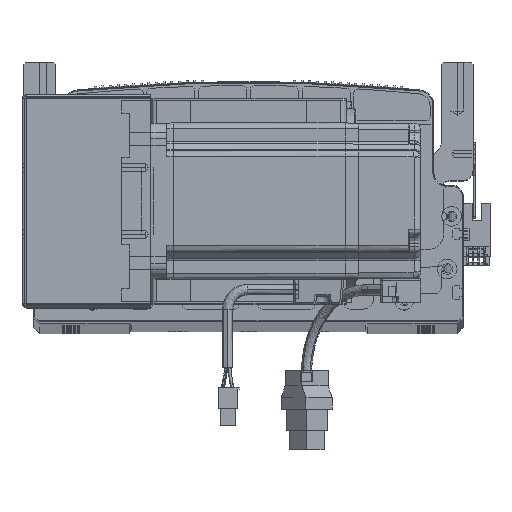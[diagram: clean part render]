
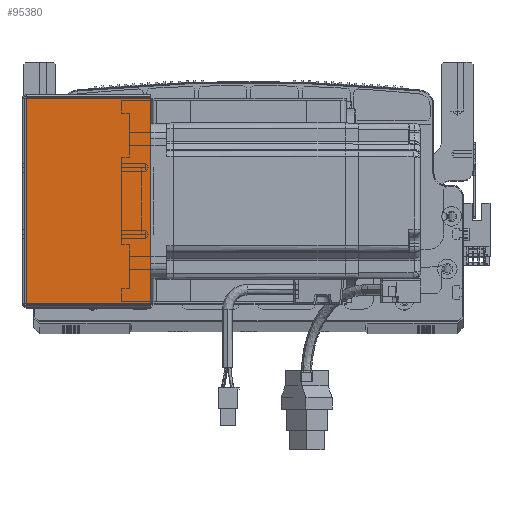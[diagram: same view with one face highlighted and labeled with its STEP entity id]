
A CAD part, top view. The second image highlights one B-rep face of the part: STEP entity #95380.
In plain terms, the highlighted planar face has unit normal (0, 0, 1) as drawn and (0, 0, -1) by its records, which use the part's own axes.
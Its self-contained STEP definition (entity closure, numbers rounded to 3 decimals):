
#6167 = ORIENTED_EDGE ( 'NONE', *, *, #56945, .T. ) ;
#6754 = VECTOR ( 'NONE', #90487, 1000. ) ;
#7267 = ORIENTED_EDGE ( 'NONE', *, *, #48030, .T. ) ;
#9676 = LINE ( 'NONE', #19001, #22645 ) ;
#12675 = CARTESIAN_POINT ( 'NONE',  ( 0.737, 0.707, -205.5 ) ) ;
#15250 = CARTESIAN_POINT ( 'NONE',  ( 0., 0., -205.5 ) ) ;
#19001 = CARTESIAN_POINT ( 'NONE',  ( 0.737, 0., -205.5 ) ) ;
#21918 = CARTESIAN_POINT ( 'NONE',  ( 64.5, 105.293, -205.5 ) ) ;
#22645 = VECTOR ( 'NONE', #80135, 1000. ) ;
#23837 = VERTEX_POINT ( 'NONE', #63169 ) ;
#24911 = LINE ( 'NONE', #50038, #88760 ) ;
#25535 = EDGE_CURVE ( 'NONE', #92250, #58649, #9676, .T. ) ;
#30109 = DIRECTION ( 'NONE',  ( 0., 0., 1. ) ) ;
#38703 = VECTOR ( 'NONE', #64948, 1000. ) ;
#42823 = DIRECTION ( 'NONE',  ( 1., 0., 0. ) ) ;
#45684 = PLANE ( 'NONE',  #76133 ) ;
#46244 = CARTESIAN_POINT ( 'NONE',  ( 64.5, 0., -205.5 ) ) ;
#46977 = LINE ( 'NONE', #46244, #6754 ) ;
#48030 = EDGE_CURVE ( 'NONE', #92250, #68397, #24911, .T. ) ;
#50038 = CARTESIAN_POINT ( 'NONE',  ( 0., 105.293, -205.5 ) ) ;
#53091 = EDGE_CURVE ( 'NONE', #58649, #23837, #96628, .T. ) ;
#56945 = EDGE_CURVE ( 'NONE', #68397, #23837, #46977, .T. ) ;
#58649 = VERTEX_POINT ( 'NONE', #12675 ) ;
#61451 = ORIENTED_EDGE ( 'NONE', *, *, #25535, .F. ) ;
#63169 = CARTESIAN_POINT ( 'NONE',  ( 64.5, 0.707, -205.5 ) ) ;
#64948 = DIRECTION ( 'NONE',  ( 1., 0., 0. ) ) ;
#68397 = VERTEX_POINT ( 'NONE', #21918 ) ;
#68407 = DIRECTION ( 'NONE',  ( 1., 0., 0. ) ) ;
#76133 = AXIS2_PLACEMENT_3D ( 'NONE', #15250, #30109, #68407 ) ;
#76185 = CARTESIAN_POINT ( 'NONE',  ( 0.737, 105.293, -205.5 ) ) ;
#80135 = DIRECTION ( 'NONE',  ( 0., -1., 0. ) ) ;
#82510 = FACE_OUTER_BOUND ( 'NONE', #84599, .T. ) ;
#84599 = EDGE_LOOP ( 'NONE', ( #61451, #7267, #6167, #88394 ) ) ;
#88135 = CARTESIAN_POINT ( 'NONE',  ( 0., 0.707, -205.5 ) ) ;
#88394 = ORIENTED_EDGE ( 'NONE', *, *, #53091, .F. ) ;
#88760 = VECTOR ( 'NONE', #42823, 1000. ) ;
#90487 = DIRECTION ( 'NONE',  ( 0., -1., 0. ) ) ;
#92250 = VERTEX_POINT ( 'NONE', #76185 ) ;
#95380 = ADVANCED_FACE ( 'NONE', ( #82510 ), #45684, .F. ) ;
#96628 = LINE ( 'NONE', #88135, #38703 ) ;
